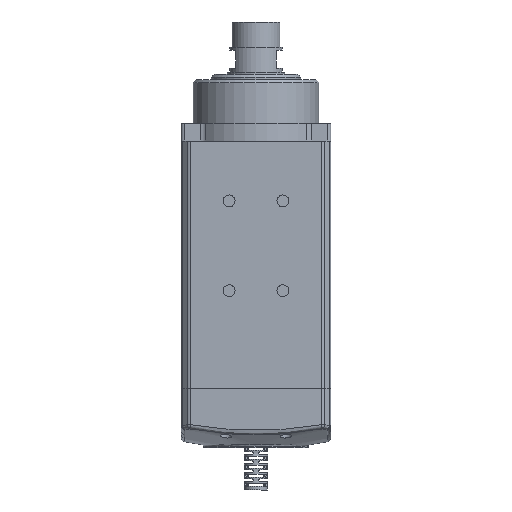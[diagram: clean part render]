
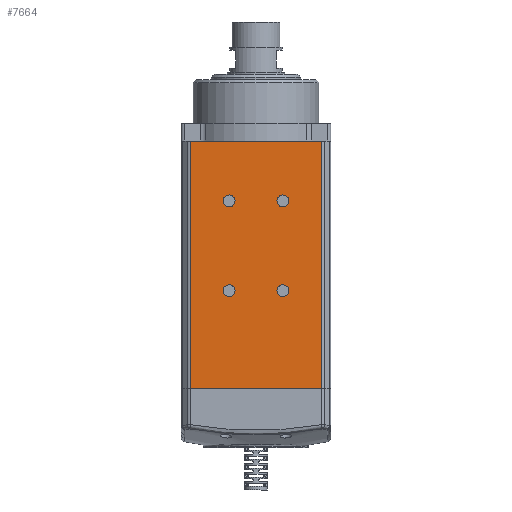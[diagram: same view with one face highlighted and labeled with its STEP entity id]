
A CAD part, front view. The second image highlights one B-rep face of the part: STEP entity #7664.
In plain terms, the highlighted planar face has unit normal (0, -1, 0).
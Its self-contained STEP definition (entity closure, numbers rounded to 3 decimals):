
#285 = EDGE_CURVE ( 'NONE', #17052, #7889, #24178, .T. ) ;
#850 = AXIS2_PLACEMENT_3D ( 'NONE', #49491, #15483, #9872 ) ;
#1223 = DIRECTION ( 'NONE',  ( 0., -1., 0. ) ) ;
#3082 = DIRECTION ( 'NONE',  ( 0., 0., 1. ) ) ;
#3663 = EDGE_CURVE ( 'NONE', #16627, #48771, #33354, .T. ) ;
#4639 = AXIS2_PLACEMENT_3D ( 'NONE', #39847, #34218, #28526 ) ;
#5034 = EDGE_CURVE ( 'NONE', #17591, #37253, #46473, .T. ) ;
#5041 = VECTOR ( 'NONE', #31465, 1000. ) ;
#5305 = VERTEX_POINT ( 'NONE', #24428 ) ;
#5743 = VERTEX_POINT ( 'NONE', #39681 ) ;
#5952 = AXIS2_PLACEMENT_3D ( 'NONE', #38849, #33172, #27524 ) ;
#6951 = CARTESIAN_POINT ( 'NONE',  ( 0., -60., -165. ) ) ;
#7664 = ADVANCED_FACE ( 'NONE', ( #10502, #10748, #10426, #10225, #10148 ), #29604, .T. ) ;
#7889 = VERTEX_POINT ( 'NONE', #40521 ) ;
#8856 = CARTESIAN_POINT ( 'NONE',  ( -43.757, -60., -165. ) ) ;
#9872 = DIRECTION ( 'NONE',  ( 1., 0., 0. ) ) ;
#10148 = FACE_OUTER_BOUND ( 'NONE', #35518, .T. ) ;
#10225 = FACE_BOUND ( 'NONE', #55199, .T. ) ;
#10252 = CARTESIAN_POINT ( 'NONE',  ( -43.757, -60., 0. ) ) ;
#10342 = VECTOR ( 'NONE', #49551, 1000. ) ;
#10426 = FACE_BOUND ( 'NONE', #48667, .T. ) ;
#10502 = FACE_BOUND ( 'NONE', #54455, .T. ) ;
#10748 = FACE_BOUND ( 'NONE', #21375, .T. ) ;
#10867 = EDGE_CURVE ( 'NONE', #37253, #17591, #43393, .T. ) ;
#11186 = AXIS2_PLACEMENT_3D ( 'NONE', #6951, #1223, #50896 ) ;
#11235 = LINE ( 'NONE', #55180, #10342 ) ;
#12508 = CARTESIAN_POINT ( 'NONE',  ( 22., -60., -40. ) ) ;
#13962 = EDGE_CURVE ( 'NONE', #5305, #28104, #42780, .T. ) ;
#14239 = EDGE_CURVE ( 'NONE', #28104, #44887, #54694, .T. ) ;
#14446 = LINE ( 'NONE', #8856, #15734 ) ;
#14928 = CARTESIAN_POINT ( 'NONE',  ( 43.757, -60., 0. ) ) ;
#15483 = DIRECTION ( 'NONE',  ( 0., -1., 0. ) ) ;
#15734 = VECTOR ( 'NONE', #3082, 1000. ) ;
#16627 = VERTEX_POINT ( 'NONE', #21684 ) ;
#17052 = VERTEX_POINT ( 'NONE', #30254 ) ;
#17395 = ORIENTED_EDGE ( 'NONE', *, *, #10867, .F. ) ;
#17465 = DIRECTION ( 'NONE',  ( -1., 0., 0. ) ) ;
#17591 = VERTEX_POINT ( 'NONE', #12508 ) ;
#17991 = CIRCLE ( 'NONE', #48208, 4. ) ;
#18741 = ORIENTED_EDGE ( 'NONE', *, *, #25353, .F. ) ;
#20178 = AXIS2_PLACEMENT_3D ( 'NONE', #28828, #23195, #17465 ) ;
#20390 = VECTOR ( 'NONE', #43424, 1000. ) ;
#21227 = ORIENTED_EDGE ( 'NONE', *, *, #13962, .T. ) ;
#21375 = EDGE_LOOP ( 'NONE', ( #26488, #42359 ) ) ;
#21684 = CARTESIAN_POINT ( 'NONE',  ( -22., -60., -100. ) ) ;
#22112 = DIRECTION ( 'NONE',  ( -1., 0., 0. ) ) ;
#23195 = DIRECTION ( 'NONE',  ( 0., -1., 0. ) ) ;
#24178 = CIRCLE ( 'NONE', #5952, 4. ) ;
#24428 = CARTESIAN_POINT ( 'NONE',  ( -43.757, -60., -165. ) ) ;
#25000 = VERTEX_POINT ( 'NONE', #10252 ) ;
#25353 = EDGE_CURVE ( 'NONE', #48771, #16627, #26799, .T. ) ;
#26048 = EDGE_CURVE ( 'NONE', #25000, #44887, #11235, .T. ) ;
#26488 = ORIENTED_EDGE ( 'NONE', *, *, #50454, .F. ) ;
#26799 = CIRCLE ( 'NONE', #4639, 4. ) ;
#26918 = CARTESIAN_POINT ( 'NONE',  ( -14., -60., -100. ) ) ;
#27524 = DIRECTION ( 'NONE',  ( 1., 0., 0. ) ) ;
#27732 = DIRECTION ( 'NONE',  ( 0., -1., 0. ) ) ;
#28104 = VERTEX_POINT ( 'NONE', #29841 ) ;
#28526 = DIRECTION ( 'NONE',  ( 1., 0., 0. ) ) ;
#28828 = CARTESIAN_POINT ( 'NONE',  ( 18., -60., -100. ) ) ;
#28946 = DIRECTION ( 'NONE',  ( -1., 0., 0. ) ) ;
#29024 = ORIENTED_EDGE ( 'NONE', *, *, #26048, .F. ) ;
#29604 = PLANE ( 'NONE',  #11186 ) ;
#29841 = CARTESIAN_POINT ( 'NONE',  ( 43.757, -60., -165. ) ) ;
#30254 = CARTESIAN_POINT ( 'NONE',  ( -14., -60., -40. ) ) ;
#30697 = EDGE_CURVE ( 'NONE', #40058, #5743, #36662, .T. ) ;
#31465 = DIRECTION ( 'NONE',  ( 1., 0., 0. ) ) ;
#33172 = DIRECTION ( 'NONE',  ( 0., -1., 0. ) ) ;
#33342 = ORIENTED_EDGE ( 'NONE', *, *, #3663, .F. ) ;
#33354 = CIRCLE ( 'NONE', #850, 4. ) ;
#33394 = CARTESIAN_POINT ( 'NONE',  ( 18., -60., -40. ) ) ;
#33829 = CARTESIAN_POINT ( 'NONE',  ( 14., -60., -40. ) ) ;
#34218 = DIRECTION ( 'NONE',  ( 0., -1., 0. ) ) ;
#34627 = DIRECTION ( 'NONE',  ( 0., -1., 0. ) ) ;
#35518 = EDGE_LOOP ( 'NONE', ( #29024, #36829, #21227, #52472 ) ) ;
#36090 = DIRECTION ( 'NONE',  ( -1., 0., 0. ) ) ;
#36139 = AXIS2_PLACEMENT_3D ( 'NONE', #40253, #34627, #28946 ) ;
#36662 = CIRCLE ( 'NONE', #20178, 4. ) ;
#36829 = ORIENTED_EDGE ( 'NONE', *, *, #51424, .F. ) ;
#37100 = CARTESIAN_POINT ( 'NONE',  ( 0., -60., -165. ) ) ;
#37253 = VERTEX_POINT ( 'NONE', #33829 ) ;
#38067 = AXIS2_PLACEMENT_3D ( 'NONE', #52291, #46631, #40943 ) ;
#38849 = CARTESIAN_POINT ( 'NONE',  ( -18., -60., -40. ) ) ;
#39681 = CARTESIAN_POINT ( 'NONE',  ( 22., -60., -100. ) ) ;
#39847 = CARTESIAN_POINT ( 'NONE',  ( -18., -60., -100. ) ) ;
#40058 = VERTEX_POINT ( 'NONE', #41306 ) ;
#40253 = CARTESIAN_POINT ( 'NONE',  ( 18., -60., -40. ) ) ;
#40521 = CARTESIAN_POINT ( 'NONE',  ( -22., -60., -40. ) ) ;
#40943 = DIRECTION ( 'NONE',  ( 1., 0., 0. ) ) ;
#40960 = EDGE_CURVE ( 'NONE', #7889, #17052, #54305, .T. ) ;
#41306 = CARTESIAN_POINT ( 'NONE',  ( 14., -60., -100. ) ) ;
#41727 = DIRECTION ( 'NONE',  ( 0., -1., 0. ) ) ;
#41747 = AXIS2_PLACEMENT_3D ( 'NONE', #33394, #27732, #22112 ) ;
#42359 = ORIENTED_EDGE ( 'NONE', *, *, #30697, .F. ) ;
#42780 = LINE ( 'NONE', #37100, #5041 ) ;
#43393 = CIRCLE ( 'NONE', #41747, 4. ) ;
#43424 = DIRECTION ( 'NONE',  ( 0., 0., 1. ) ) ;
#44887 = VERTEX_POINT ( 'NONE', #14928 ) ;
#46473 = CIRCLE ( 'NONE', #36139, 4. ) ;
#46631 = DIRECTION ( 'NONE',  ( 0., -1., 0. ) ) ;
#47430 = CARTESIAN_POINT ( 'NONE',  ( 18., -60., -100. ) ) ;
#48208 = AXIS2_PLACEMENT_3D ( 'NONE', #47430, #41727, #36090 ) ;
#48667 = EDGE_LOOP ( 'NONE', ( #18741, #33342 ) ) ;
#48771 = VERTEX_POINT ( 'NONE', #26918 ) ;
#49072 = CARTESIAN_POINT ( 'NONE',  ( 43.757, -60., -165. ) ) ;
#49491 = CARTESIAN_POINT ( 'NONE',  ( -18., -60., -100. ) ) ;
#49551 = DIRECTION ( 'NONE',  ( 1., 0., 0. ) ) ;
#49788 = ORIENTED_EDGE ( 'NONE', *, *, #5034, .F. ) ;
#50454 = EDGE_CURVE ( 'NONE', #5743, #40058, #17991, .T. ) ;
#50896 = DIRECTION ( 'NONE',  ( 1., 0., 0. ) ) ;
#51424 = EDGE_CURVE ( 'NONE', #5305, #25000, #14446, .T. ) ;
#52291 = CARTESIAN_POINT ( 'NONE',  ( -18., -60., -40. ) ) ;
#52472 = ORIENTED_EDGE ( 'NONE', *, *, #14239, .T. ) ;
#53920 = ORIENTED_EDGE ( 'NONE', *, *, #40960, .F. ) ;
#54305 = CIRCLE ( 'NONE', #38067, 4. ) ;
#54455 = EDGE_LOOP ( 'NONE', ( #49788, #17395 ) ) ;
#54694 = LINE ( 'NONE', #49072, #20390 ) ;
#54984 = ORIENTED_EDGE ( 'NONE', *, *, #285, .F. ) ;
#55180 = CARTESIAN_POINT ( 'NONE',  ( 0., -60., 0. ) ) ;
#55199 = EDGE_LOOP ( 'NONE', ( #54984, #53920 ) ) ;
